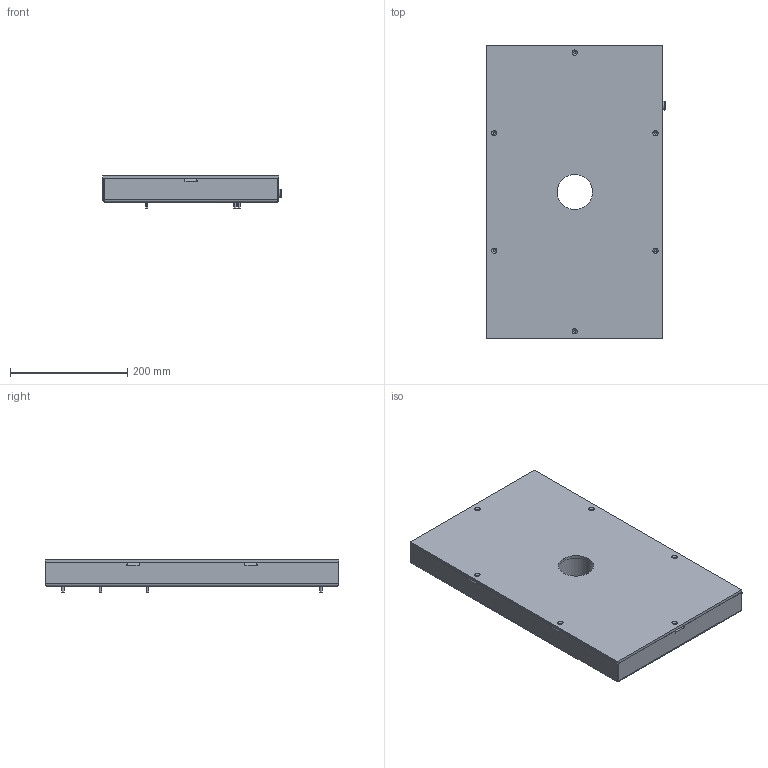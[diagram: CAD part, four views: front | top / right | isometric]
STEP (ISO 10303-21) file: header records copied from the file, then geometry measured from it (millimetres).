
FILE_DESCRIPTION (( 'STEP AP214' ), '1' );
FILE_NAME ('GM000590 White Toplight 200_350_500.STEP', '2022-01-24T14:56:21', ( '' ), ( '' ), 'SwSTEP 2.0', 'SolidWorks 2020', '' );
FILE_SCHEMA (( 'AUTOMOTIVE_DESIGN' ));
Length unit declared in the file: millimetre
Products named in the file (7): PD002286; CM000966; GM000590 White Toplight 200_350_500; PD002287; PD001799; CE000391; CM000965
Assembly tree (6 placements, depth 2):
  GM000590 White Toplight 200_350_500
    PD001799
    PD002287
    PD002286
    CE000391
    CM000966
    CM000965
Bounding box: 304 x 500 x 55 mm (x, y, z)
Volume: 1328770.2 mm3; surface area: 1005639.9 mm2
Topology: 6 solids, 6 shells, 416 faces, 1056 edges, 672 vertices
Faces by surface type: cylinder 217, plane 175, cone 12, bspline 8, torus 4
Entity records: 13586 total; most frequent: CARTESIAN_POINT 2587, DIRECTION 2300, ORIENTED_EDGE 2112, EDGE_CURVE 1056, AXIS2_PLACEMENT_3D 855, VERTEX_POINT 672, LINE 590, VECTOR 590
